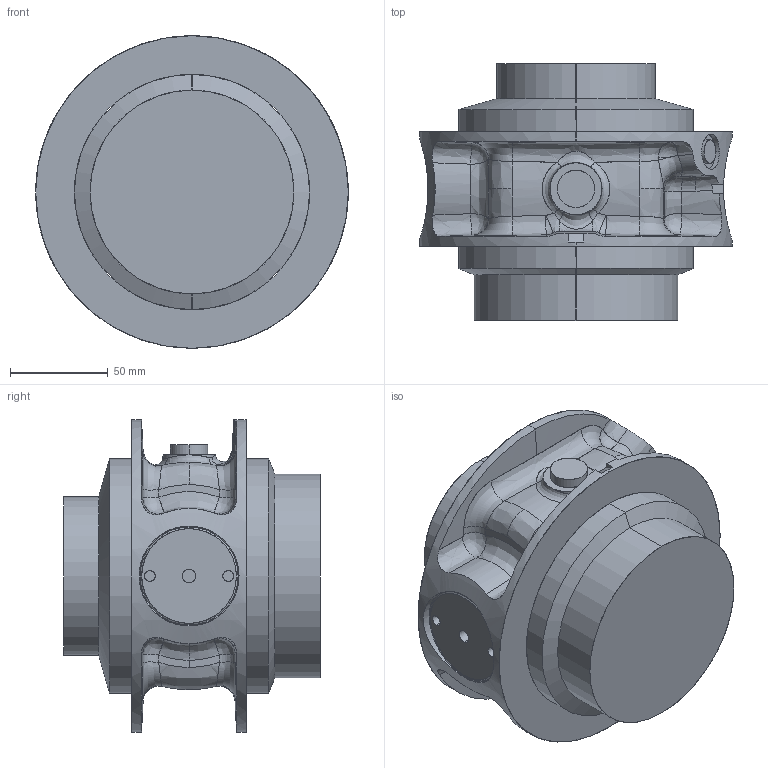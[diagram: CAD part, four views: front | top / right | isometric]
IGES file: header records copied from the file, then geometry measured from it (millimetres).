
Start section: SolidWorks IGES file using analytic representation for surfaces
Global section: file name: C:\Data\SAP_DOC\_2016-Q4_Lättmodeller RobCal\CAD Model_IRB4600_Rev04\IRB4600_45kg-205_IRC5_rev04\IRB4600_45kg-205_IRC5_rev04_IRC5_IGES_j\IRB4600_45kg-205_LINK5_CAD_rev04.IGS; native system: SolidWorks 2014; preprocessor: SolidWorks 2014; author: SEMAAXM; date: 161206.113120; units: millimetre
Bounding box: 159.5 x 131 x 159.5 mm (x, y, z)
Surface area: 102373 mm2 (no closed solid volume)
Topology: 0 solids, 0 shells, 161 faces, 2689 edges, 2689 vertices
Faces by surface type: bspline 88, revolution 73
